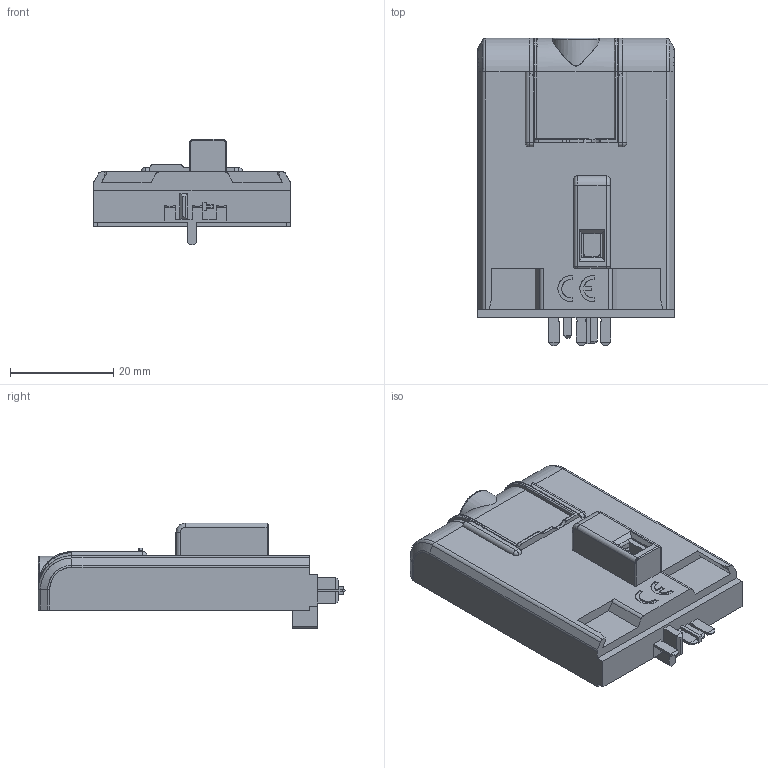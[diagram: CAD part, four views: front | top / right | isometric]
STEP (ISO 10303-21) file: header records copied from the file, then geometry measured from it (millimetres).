
FILE_DESCRIPTION(('STEP AP214'),'2;1');
FILE_NAME('complessivo 86_00-catalogo.stp','2010-10-28T14:35:32',(''),(''),'2007.1.106','THINKDESIGN','');
FILE_SCHEMA(('AUTOMOTIVE_DESIGN'));
Length unit declared in the file: millimetre
Products named in the file (1): None
Bounding box: 38 x 59.4 x 20.4 mm (x, y, z)
Surface area: 9172.7 mm2 (no closed solid volume)
Topology: 0 solids, 0 shells, 381 faces, 2281 edges, 2273 vertices
Faces by surface type: plane 243, cylinder 71, bspline 67
Full cylindrical faces by diameter (mm): 3 x1, 5.8 x1
Entity records: 24808 total; most frequent: CARTESIAN_POINT 9233, DIRECTION 2618, COMPOSITE_CURVE_SEGMENT 2273, TRIMMED_CURVE 1822, VECTOR 1658, LINE 1658, AXIS2_PLACEMENT_3D 480, OUTER_BOUNDARY_CURVE 381
